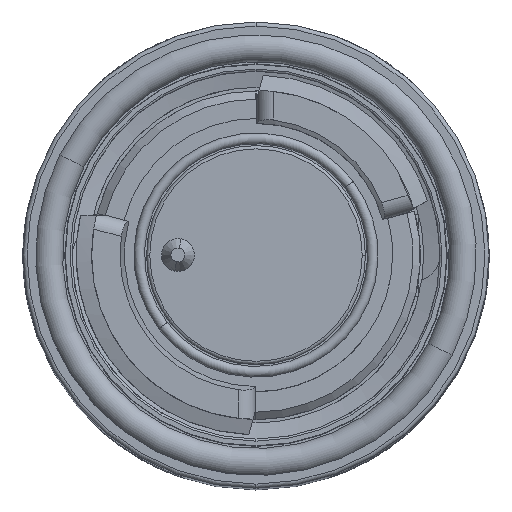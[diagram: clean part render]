
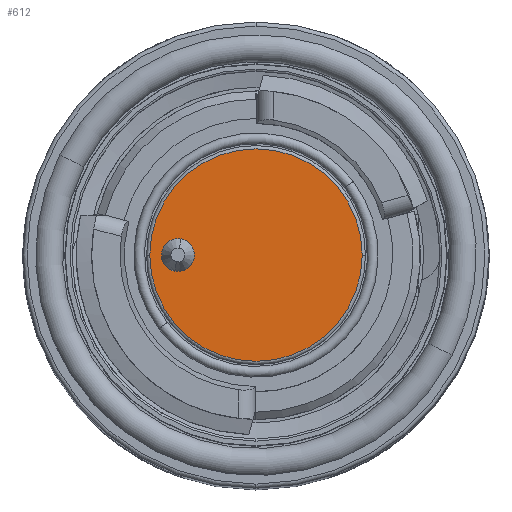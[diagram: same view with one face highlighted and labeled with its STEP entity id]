
A CAD part, top view. The second image highlights one B-rep face of the part: STEP entity #612.
In plain terms, the highlighted planar face has unit normal (0, 0, 1).
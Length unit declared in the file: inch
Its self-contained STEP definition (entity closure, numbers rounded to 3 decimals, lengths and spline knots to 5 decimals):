
#154 = FACE_BOUND ( 'NONE', #6094, .T. ) ;
#287 = DIRECTION ( 'NONE',  ( -1., 0., 0. ) ) ;
#612 = ADVANCED_FACE ( 'NONE', ( #154, #3778 ), #5056, .F. ) ;
#726 = CARTESIAN_POINT ( 'NONE',  ( 0., 0., -0.25984 ) ) ;
#1075 = EDGE_CURVE ( 'NONE', #4523, #7757, #6816, .T. ) ;
#1133 = AXIS2_PLACEMENT_3D ( 'NONE', #4295, #3672, #7704 ) ;
#1258 = EDGE_LOOP ( 'NONE', ( #7918, #3591 ) ) ;
#1268 = CARTESIAN_POINT ( 'NONE',  ( -0.17951, 0.03863, -0.25984 ) ) ;
#1403 = EDGE_CURVE ( 'NONE', #7757, #4523, #8055, .T. ) ;
#1622 = DIRECTION ( 'NONE',  ( 0., 0., -1. ) ) ;
#1858 = AXIS2_PLACEMENT_3D ( 'NONE', #726, #6309, #2159 ) ;
#2053 = CARTESIAN_POINT ( 'NONE',  ( -0.18701, 0., -0.25984 ) ) ;
#2159 = DIRECTION ( 'NONE',  ( 1., 0., 0. ) ) ;
#2297 = EDGE_CURVE ( 'NONE', #8710, #2301, #5595, .T. ) ;
#2301 = VERTEX_POINT ( 'NONE', #1268 ) ;
#2789 = EDGE_CURVE ( 'NONE', #2301, #8710, #7981, .T. ) ;
#3436 = DIRECTION ( 'NONE',  ( 0., 0., -1. ) ) ;
#3522 = AXIS2_PLACEMENT_3D ( 'NONE', #7865, #1622, #287 ) ;
#3591 = ORIENTED_EDGE ( 'NONE', *, *, #1075, .T. ) ;
#3672 = DIRECTION ( 'NONE',  ( 0., 0., -1. ) ) ;
#3778 = FACE_OUTER_BOUND ( 'NONE', #1258, .T. ) ;
#4295 = CARTESIAN_POINT ( 'NONE',  ( -0.18701, 0., -0.25984 ) ) ;
#4523 = VERTEX_POINT ( 'NONE', #5798 ) ;
#4760 = ORIENTED_EDGE ( 'NONE', *, *, #2297, .T. ) ;
#5056 = PLANE ( 'NONE',  #3522 ) ;
#5391 = DIRECTION ( 'NONE',  ( -1., 0., 0. ) ) ;
#5595 = CIRCLE ( 'NONE', #7190, 0.03935 ) ;
#5798 = CARTESIAN_POINT ( 'NONE',  ( -0.25433, 0., -0.25984 ) ) ;
#5931 = DIRECTION ( 'NONE',  ( 1., 0., 0. ) ) ;
#6094 = EDGE_LOOP ( 'NONE', ( #4760, #7383 ) ) ;
#6146 = CARTESIAN_POINT ( 'NONE',  ( 0.25433, 0., -0.25984 ) ) ;
#6309 = DIRECTION ( 'NONE',  ( 0., 0., 1. ) ) ;
#6602 = AXIS2_PLACEMENT_3D ( 'NONE', #7878, #8051, #5931 ) ;
#6816 = CIRCLE ( 'NONE', #1858, 0.25433 ) ;
#7190 = AXIS2_PLACEMENT_3D ( 'NONE', #2053, #3436, #5391 ) ;
#7383 = ORIENTED_EDGE ( 'NONE', *, *, #2789, .T. ) ;
#7704 = DIRECTION ( 'NONE',  ( -1., 0., 0. ) ) ;
#7757 = VERTEX_POINT ( 'NONE', #6146 ) ;
#7865 = CARTESIAN_POINT ( 'NONE',  ( -0.25433, 0., -0.25984 ) ) ;
#7878 = CARTESIAN_POINT ( 'NONE',  ( 0., 0., -0.25984 ) ) ;
#7918 = ORIENTED_EDGE ( 'NONE', *, *, #1403, .T. ) ;
#7981 = CIRCLE ( 'NONE', #1133, 0.03935 ) ;
#8051 = DIRECTION ( 'NONE',  ( 0., 0., 1. ) ) ;
#8055 = CIRCLE ( 'NONE', #6602, 0.25433 ) ;
#8465 = CARTESIAN_POINT ( 'NONE',  ( -0.19451, -0.03863, -0.25984 ) ) ;
#8710 = VERTEX_POINT ( 'NONE', #8465 ) ;
